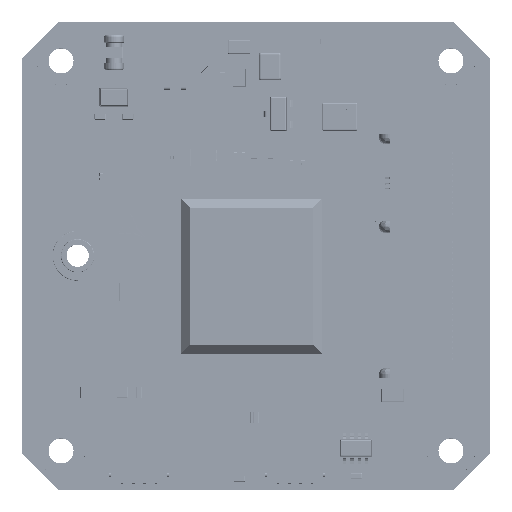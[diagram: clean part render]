
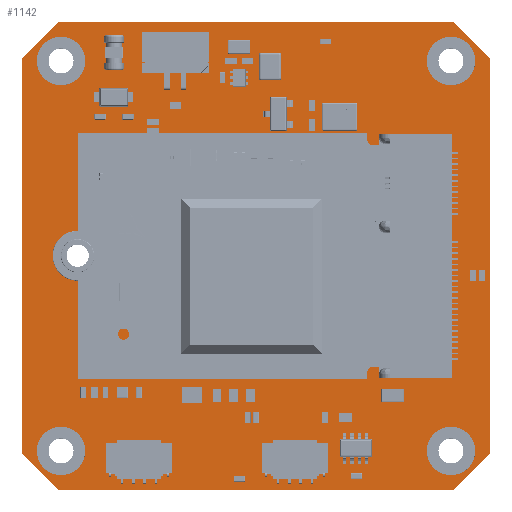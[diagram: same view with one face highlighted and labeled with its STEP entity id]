
A CAD part, top view. The second image highlights one B-rep face of the part: STEP entity #1142.
In plain terms, the highlighted planar face has unit normal (0, 0, 1).
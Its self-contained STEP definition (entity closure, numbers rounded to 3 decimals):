
#293 = VERTEX_POINT('',#294);
#294 = CARTESIAN_POINT('',(0.,3.3,1.571));
#300 = EDGE_CURVE('',#293,#301,#303,.T.);
#301 = VERTEX_POINT('',#302);
#302 = CARTESIAN_POINT('',(3.3,0.,1.571));
#303 = LINE('',#304,#305);
#304 = CARTESIAN_POINT('',(0.,3.3,1.571));
#305 = VECTOR('',#306,1.);
#306 = DIRECTION('',(0.707,-0.707,0.));
#331 = EDGE_CURVE('',#301,#332,#334,.T.);
#332 = VERTEX_POINT('',#333);
#333 = CARTESIAN_POINT('',(38.7,0.,1.571));
#334 = LINE('',#335,#336);
#335 = CARTESIAN_POINT('',(3.3,0.,1.571));
#336 = VECTOR('',#337,1.);
#337 = DIRECTION('',(1.,0.,0.));
#362 = EDGE_CURVE('',#332,#363,#365,.T.);
#363 = VERTEX_POINT('',#364);
#364 = CARTESIAN_POINT('',(42.,3.3,1.571));
#365 = LINE('',#366,#367);
#366 = CARTESIAN_POINT('',(38.7,0.,1.571));
#367 = VECTOR('',#368,1.);
#368 = DIRECTION('',(0.707,0.707,0.));
#393 = EDGE_CURVE('',#363,#394,#396,.T.);
#394 = VERTEX_POINT('',#395);
#395 = CARTESIAN_POINT('',(42.,38.7,1.571));
#396 = LINE('',#397,#398);
#397 = CARTESIAN_POINT('',(42.,3.3,1.571));
#398 = VECTOR('',#399,1.);
#399 = DIRECTION('',(0.,1.,0.));
#424 = EDGE_CURVE('',#394,#425,#427,.T.);
#425 = VERTEX_POINT('',#426);
#426 = CARTESIAN_POINT('',(38.7,42.,1.571));
#427 = LINE('',#428,#429);
#428 = CARTESIAN_POINT('',(42.,38.7,1.571));
#429 = VECTOR('',#430,1.);
#430 = DIRECTION('',(-0.707,0.707,0.));
#455 = EDGE_CURVE('',#425,#456,#458,.T.);
#456 = VERTEX_POINT('',#457);
#457 = CARTESIAN_POINT('',(3.3,42.,1.571));
#458 = LINE('',#459,#460);
#459 = CARTESIAN_POINT('',(38.7,42.,1.571));
#460 = VECTOR('',#461,1.);
#461 = DIRECTION('',(-1.,0.,0.));
#486 = EDGE_CURVE('',#456,#487,#489,.T.);
#487 = VERTEX_POINT('',#488);
#488 = CARTESIAN_POINT('',(0.,38.7,1.571));
#489 = LINE('',#490,#491);
#490 = CARTESIAN_POINT('',(3.3,42.,1.571));
#491 = VECTOR('',#492,1.);
#492 = DIRECTION('',(-0.707,-0.707,0.));
#517 = EDGE_CURVE('',#487,#293,#518,.T.);
#518 = LINE('',#519,#520);
#519 = CARTESIAN_POINT('',(0.,38.7,1.571));
#520 = VECTOR('',#521,1.);
#521 = DIRECTION('',(0.,-1.,0.));
#548 = VERTEX_POINT('',#549);
#549 = CARTESIAN_POINT('',(5.,3.5,1.571));
#555 = EDGE_CURVE('',#548,#548,#556,.T.);
#556 = CIRCLE('',#557,1.5);
#557 = AXIS2_PLACEMENT_3D('',#558,#559,#560);
#558 = CARTESIAN_POINT('',(3.5,3.5,1.571));
#559 = DIRECTION('',(0.,0.,1.));
#560 = DIRECTION('',(1.,0.,-0.));
#583 = VERTEX_POINT('',#584);
#584 = CARTESIAN_POINT('',(6.51,13.64,1.571));
#590 = EDGE_CURVE('',#591,#583,#593,.T.);
#591 = VERTEX_POINT('',#592);
#592 = CARTESIAN_POINT('',(6.51,14.76,1.571));
#593 = CIRCLE('',#594,0.56);
#594 = AXIS2_PLACEMENT_3D('',#595,#596,#597);
#595 = CARTESIAN_POINT('',(6.51,14.2,1.571));
#596 = DIRECTION('',(0.,0.,1.));
#597 = DIRECTION('',(0.,1.,-0.));
#616 = VERTEX_POINT('',#617);
#617 = CARTESIAN_POINT('',(7.39,14.76,1.571));
#623 = EDGE_CURVE('',#616,#591,#624,.T.);
#624 = LINE('',#625,#626);
#625 = CARTESIAN_POINT('',(7.39,14.76,1.571));
#626 = VECTOR('',#627,1.);
#627 = DIRECTION('',(-1.,0.,0.));
#654 = EDGE_CURVE('',#655,#616,#657,.T.);
#655 = VERTEX_POINT('',#656);
#656 = CARTESIAN_POINT('',(7.39,13.64,1.571));
#657 = CIRCLE('',#658,0.56);
#658 = AXIS2_PLACEMENT_3D('',#659,#660,#661);
#659 = CARTESIAN_POINT('',(7.39,14.2,1.571));
#660 = DIRECTION('',(0.,0.,1.));
#661 = DIRECTION('',(0.,-1.,0.));
#678 = EDGE_CURVE('',#583,#655,#679,.T.);
#679 = LINE('',#680,#681);
#680 = CARTESIAN_POINT('',(6.51,13.64,1.571));
#681 = VECTOR('',#682,1.);
#682 = DIRECTION('',(1.,0.,0.));
#709 = VERTEX_POINT('',#710);
#710 = CARTESIAN_POINT('',(5.,38.5,1.571));
#716 = EDGE_CURVE('',#709,#709,#717,.T.);
#717 = CIRCLE('',#718,1.5);
#718 = AXIS2_PLACEMENT_3D('',#719,#720,#721);
#719 = CARTESIAN_POINT('',(3.5,38.5,1.571));
#720 = DIRECTION('',(0.,0.,1.));
#721 = DIRECTION('',(1.,0.,-0.));
#742 = VERTEX_POINT('',#743);
#743 = CARTESIAN_POINT('',(6.31,21.026,1.571));
#749 = EDGE_CURVE('',#742,#742,#750,.T.);
#750 = CIRCLE('',#751,1.325);
#751 = AXIS2_PLACEMENT_3D('',#752,#753,#754);
#752 = CARTESIAN_POINT('',(4.985,21.026,1.571));
#753 = DIRECTION('',(0.,0.,1.));
#754 = DIRECTION('',(1.,0.,-0.));
#777 = VERTEX_POINT('',#778);
#778 = CARTESIAN_POINT('',(6.51,27.24,1.571));
#784 = EDGE_CURVE('',#785,#777,#787,.T.);
#785 = VERTEX_POINT('',#786);
#786 = CARTESIAN_POINT('',(6.51,28.36,1.571));
#787 = CIRCLE('',#788,0.56);
#788 = AXIS2_PLACEMENT_3D('',#789,#790,#791);
#789 = CARTESIAN_POINT('',(6.51,27.8,1.571));
#790 = DIRECTION('',(0.,0.,1.));
#791 = DIRECTION('',(0.,1.,-0.));
#810 = VERTEX_POINT('',#811);
#811 = CARTESIAN_POINT('',(7.39,28.36,1.571));
#817 = EDGE_CURVE('',#810,#785,#818,.T.);
#818 = LINE('',#819,#820);
#819 = CARTESIAN_POINT('',(7.39,28.36,1.571));
#820 = VECTOR('',#821,1.);
#821 = DIRECTION('',(-1.,0.,0.));
#848 = EDGE_CURVE('',#849,#810,#851,.T.);
#849 = VERTEX_POINT('',#850);
#850 = CARTESIAN_POINT('',(7.39,27.24,1.571));
#851 = CIRCLE('',#852,0.56);
#852 = AXIS2_PLACEMENT_3D('',#853,#854,#855);
#853 = CARTESIAN_POINT('',(7.39,27.8,1.571));
#854 = DIRECTION('',(0.,0.,1.));
#855 = DIRECTION('',(0.,-1.,0.));
#872 = EDGE_CURVE('',#777,#849,#873,.T.);
#873 = LINE('',#874,#875);
#874 = CARTESIAN_POINT('',(6.51,27.24,1.571));
#875 = VECTOR('',#876,1.);
#876 = DIRECTION('',(1.,0.,0.));
#903 = VERTEX_POINT('',#904);
#904 = CARTESIAN_POINT('',(7.95,17.6,1.571));
#910 = EDGE_CURVE('',#903,#903,#911,.T.);
#911 = CIRCLE('',#912,1.);
#912 = AXIS2_PLACEMENT_3D('',#913,#914,#915);
#913 = CARTESIAN_POINT('',(6.95,17.6,1.571));
#914 = DIRECTION('',(0.,0.,1.));
#915 = DIRECTION('',(1.,0.,-0.));
#936 = VERTEX_POINT('',#937);
#937 = CARTESIAN_POINT('',(40.,3.5,1.571));
#943 = EDGE_CURVE('',#936,#936,#944,.T.);
#944 = CIRCLE('',#945,1.5);
#945 = AXIS2_PLACEMENT_3D('',#946,#947,#948);
#946 = CARTESIAN_POINT('',(38.5,3.5,1.571));
#947 = DIRECTION('',(0.,0.,1.));
#948 = DIRECTION('',(1.,0.,-0.));
#969 = VERTEX_POINT('',#970);
#970 = CARTESIAN_POINT('',(34.101,11.,1.571));
#976 = EDGE_CURVE('',#969,#969,#977,.T.);
#977 = CIRCLE('',#978,0.8);
#978 = AXIS2_PLACEMENT_3D('',#979,#980,#981);
#979 = CARTESIAN_POINT('',(33.301,11.,1.571));
#980 = DIRECTION('',(0.,0.,1.));
#981 = DIRECTION('',(1.,0.,-0.));
#1002 = VERTEX_POINT('',#1003);
#1003 = CARTESIAN_POINT('',(7.95,24.4,1.571));
#1009 = EDGE_CURVE('',#1002,#1002,#1010,.T.);
#1010 = CIRCLE('',#1011,1.);
#1011 = AXIS2_PLACEMENT_3D('',#1012,#1013,#1014);
#1012 = CARTESIAN_POINT('',(6.95,24.4,1.571));
#1013 = DIRECTION('',(0.,0.,1.));
#1014 = DIRECTION('',(1.,0.,-0.));
#1035 = VERTEX_POINT('',#1036);
#1036 = CARTESIAN_POINT('',(33.851,31.,1.571));
#1042 = EDGE_CURVE('',#1035,#1035,#1043,.T.);
#1043 = CIRCLE('',#1044,0.55);
#1044 = AXIS2_PLACEMENT_3D('',#1045,#1046,#1047);
#1045 = CARTESIAN_POINT('',(33.301,31.,1.571));
#1046 = DIRECTION('',(0.,0.,1.));
#1047 = DIRECTION('',(1.,0.,-0.));
#1068 = VERTEX_POINT('',#1069);
#1069 = CARTESIAN_POINT('',(40.,38.5,1.571));
#1075 = EDGE_CURVE('',#1068,#1068,#1076,.T.);
#1076 = CIRCLE('',#1077,1.5);
#1077 = AXIS2_PLACEMENT_3D('',#1078,#1079,#1080);
#1078 = CARTESIAN_POINT('',(38.5,38.5,1.571));
#1079 = DIRECTION('',(0.,0.,1.));
#1080 = DIRECTION('',(1.,0.,-0.));
#1142 = ADVANCED_FACE('',(#1143,#1153,#1156,#1162,#1165,#1168,#1174,
    #1177,#1180,#1183,#1186,#1189),#1192,.T.);
#1143 = FACE_BOUND('',#1144,.T.);
#1144 = EDGE_LOOP('',(#1145,#1146,#1147,#1148,#1149,#1150,#1151,#1152));
#1145 = ORIENTED_EDGE('',*,*,#300,.T.);
#1146 = ORIENTED_EDGE('',*,*,#331,.T.);
#1147 = ORIENTED_EDGE('',*,*,#362,.T.);
#1148 = ORIENTED_EDGE('',*,*,#393,.T.);
#1149 = ORIENTED_EDGE('',*,*,#424,.T.);
#1150 = ORIENTED_EDGE('',*,*,#455,.T.);
#1151 = ORIENTED_EDGE('',*,*,#486,.T.);
#1152 = ORIENTED_EDGE('',*,*,#517,.T.);
#1153 = FACE_BOUND('',#1154,.T.);
#1154 = EDGE_LOOP('',(#1155));
#1155 = ORIENTED_EDGE('',*,*,#555,.F.);
#1156 = FACE_BOUND('',#1157,.T.);
#1157 = EDGE_LOOP('',(#1158,#1159,#1160,#1161));
#1158 = ORIENTED_EDGE('',*,*,#590,.F.);
#1159 = ORIENTED_EDGE('',*,*,#623,.F.);
#1160 = ORIENTED_EDGE('',*,*,#654,.F.);
#1161 = ORIENTED_EDGE('',*,*,#678,.F.);
#1162 = FACE_BOUND('',#1163,.T.);
#1163 = EDGE_LOOP('',(#1164));
#1164 = ORIENTED_EDGE('',*,*,#716,.F.);
#1165 = FACE_BOUND('',#1166,.T.);
#1166 = EDGE_LOOP('',(#1167));
#1167 = ORIENTED_EDGE('',*,*,#749,.F.);
#1168 = FACE_BOUND('',#1169,.T.);
#1169 = EDGE_LOOP('',(#1170,#1171,#1172,#1173));
#1170 = ORIENTED_EDGE('',*,*,#784,.F.);
#1171 = ORIENTED_EDGE('',*,*,#817,.F.);
#1172 = ORIENTED_EDGE('',*,*,#848,.F.);
#1173 = ORIENTED_EDGE('',*,*,#872,.F.);
#1174 = FACE_BOUND('',#1175,.T.);
#1175 = EDGE_LOOP('',(#1176));
#1176 = ORIENTED_EDGE('',*,*,#910,.F.);
#1177 = FACE_BOUND('',#1178,.T.);
#1178 = EDGE_LOOP('',(#1179));
#1179 = ORIENTED_EDGE('',*,*,#943,.F.);
#1180 = FACE_BOUND('',#1181,.T.);
#1181 = EDGE_LOOP('',(#1182));
#1182 = ORIENTED_EDGE('',*,*,#976,.F.);
#1183 = FACE_BOUND('',#1184,.T.);
#1184 = EDGE_LOOP('',(#1185));
#1185 = ORIENTED_EDGE('',*,*,#1009,.F.);
#1186 = FACE_BOUND('',#1187,.T.);
#1187 = EDGE_LOOP('',(#1188));
#1188 = ORIENTED_EDGE('',*,*,#1042,.F.);
#1189 = FACE_BOUND('',#1190,.T.);
#1190 = EDGE_LOOP('',(#1191));
#1191 = ORIENTED_EDGE('',*,*,#1075,.F.);
#1192 = PLANE('',#1193);
#1193 = AXIS2_PLACEMENT_3D('',#1194,#1195,#1196);
#1194 = CARTESIAN_POINT('',(21.,21.,1.571));
#1195 = DIRECTION('',(0.,0.,1.));
#1196 = DIRECTION('',(1.,0.,-0.));
